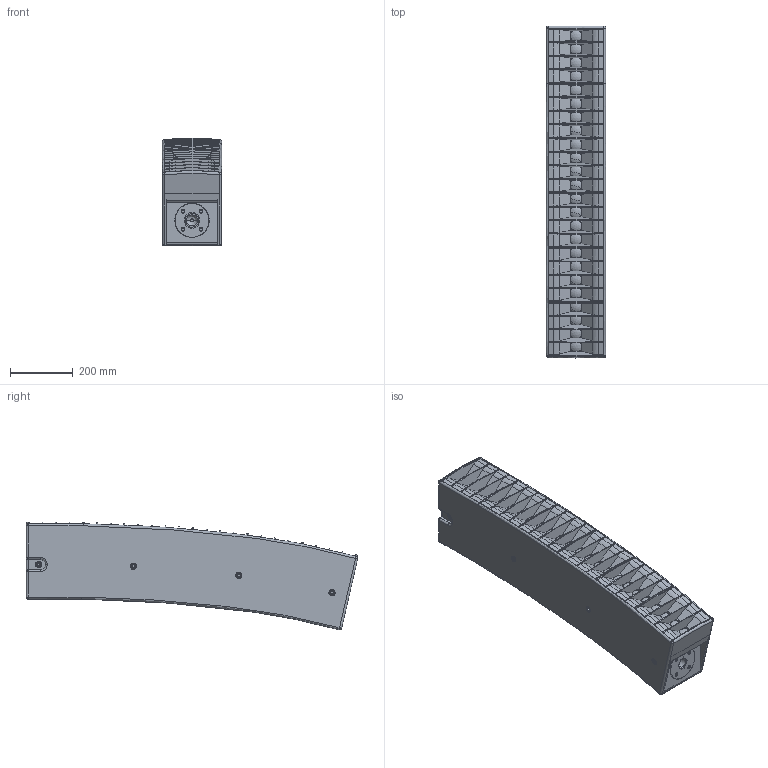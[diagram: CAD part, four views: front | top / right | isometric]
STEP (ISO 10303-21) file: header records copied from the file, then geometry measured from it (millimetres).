
FILE_DESCRIPTION (( 'STEP AP203' ), '1' );
FILE_NAME ('SEEBURG_GL24.STEP', '2012-10-15T13:13:55', ( 'Fabian' ), ( '' ), 'SwSTEP 2.0', 'SolidWorks 2009', '' );
FILE_SCHEMA (( 'CONFIG_CONTROL_DESIGN' ));
Products named in the file (2): GL24; SEEBURG_GL24
Assembly tree (1 placements, depth 2):
  SEEBURG_GL24
    GL24
Bounding box: 189 x 1057.81 x 342.99 mm (x, y, z)
Volume: 14145146.8 mm3; surface area: 2456275.3 mm2
Topology: 54 solids, 54 shells, 1303 faces, 3370 edges, 2170 vertices
Faces by surface type: plane 619, cylinder 524, cone 78, sphere 54, torus 16, bspline 12
Entity records: 47284 total; most frequent: CARTESIAN_POINT 14937, DIRECTION 6795, ORIENTED_EDGE 6710, EDGE_CURVE 3355, AXIS2_PLACEMENT_3D 2447, VERTEX_POINT 2162, VECTOR 1901, LINE 1901
